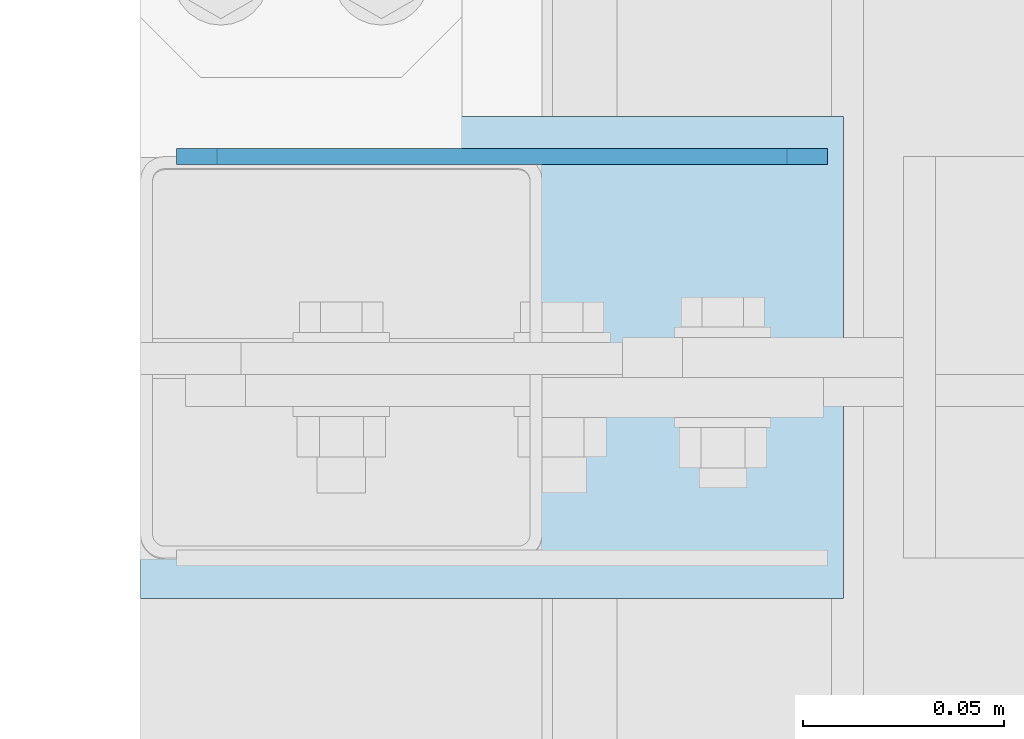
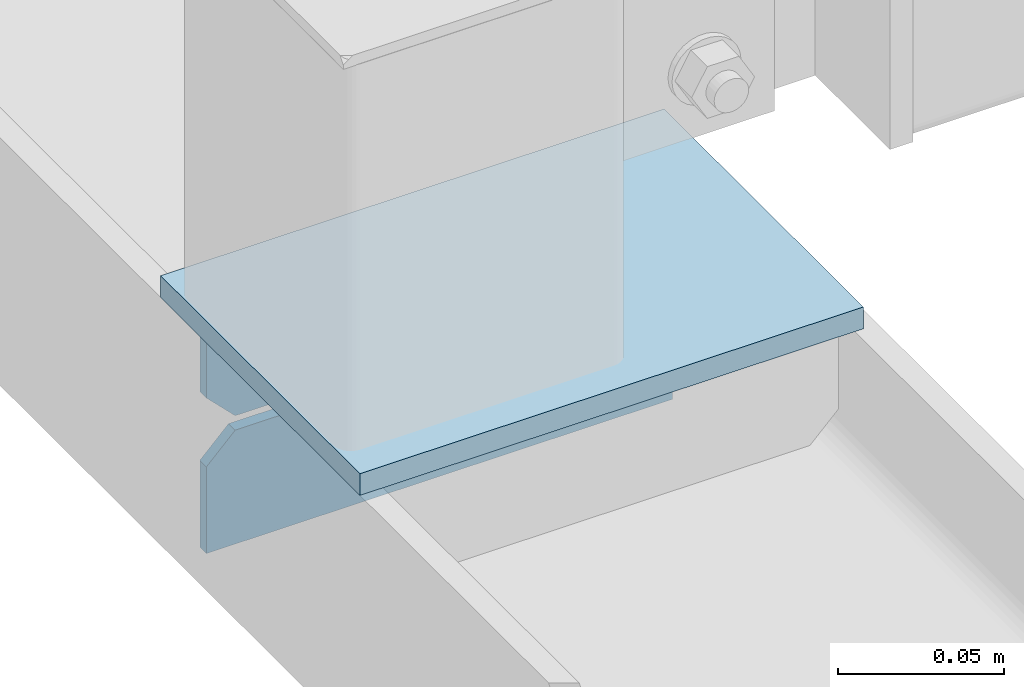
# One storey, part 100 of 271: 3 plates, 1 element without a shape of its own.
"""IFC2X3 building model written with IfcOpenShell, lengths in millimetres."""

import ifcopenshell
import ifcopenshell.guid

model = None  # the IFC model being written
_history = None  # IfcOwnerHistory: only IFC2X3 demands one
_inside = {}  # id of a spatial element -> (the spatial element, [elements in it])
_under = {}  # id of a project, library or spatial element -> (it, [spatial elements below it])
_declared = {}  # id of a project -> (the project, [libraries it declares])
_typed = {}  # id of a type object -> (the type object, [elements of that type])
_made_of = {}  # id of a material, layer set ... -> (it, [elements and type objects made of it])


def new_model(schema):
    """Start an empty IFC model of exactly this schema.

    Asked for "IFC4X3", IfcOpenShell would pick the latest addendum, in which some entities
    have other attributes; the version numbers below select the first issue.
    IFC2X3 requires an IfcOwnerHistory on every rooted entity: one is made here for all.
    """
    global model, _history
    if schema == "IFC4X3":
        model = ifcopenshell.file(schema_version=(4, 3, 0, 0))
    else:
        model = ifcopenshell.file(schema=schema)
    _inside.clear()
    _under.clear()
    _declared.clear()
    _typed.clear()
    _made_of.clear()
    _history = None
    if model.schema == "IFC2X3":
        org = make("IfcOrganization", Name="unknown")
        user = make(
            "IfcPersonAndOrganization",
            ThePerson=make("IfcPerson", FamilyName="unknown"),
            TheOrganization=org,
        )
        app = make(
            "IfcApplication",
            ApplicationDeveloper=org,
            Version="unknown",
            ApplicationFullName="unknown",
            ApplicationIdentifier="unknown",
        )
        _history = make(
            "IfcOwnerHistory",
            OwningUser=user,
            OwningApplication=app,
            ChangeAction="ADDED",
            CreationDate=0,
        )
    return model


def make(cls, **values):
    """One entity of the class cls with the attributes given. An attribute that is None is left unset."""
    return model.create_entity(
        cls, **{name: value for name, value in values.items() if value is not None}
    )


def rooted(cls, **values):
    """An entity with a GlobalId (a new one), such as an element, a storey or a relation."""
    return make(cls, GlobalId=ifcopenshell.guid.new(), OwnerHistory=_history, **values)


def si_unit(unit_type, name, prefix=None):
    """IfcSIUnit, for example si_unit("LENGTHUNIT", "METRE", prefix="MILLI")."""
    return make("IfcSIUnit", UnitType=unit_type, Prefix=prefix, Name=name)


def assignment(units):
    """IfcUnitAssignment: the units of a project."""
    return None if units is None else make("IfcUnitAssignment", Units=units)


def point(xyz):
    """IfcCartesianPoint."""
    return None if xyz is None else make("IfcCartesianPoint", Coordinates=xyz)


def direction(xyz):
    """IfcDirection."""
    return None if xyz is None else make("IfcDirection", DirectionRatios=xyz)


def frame(location, z_axis=None, x_axis=None):
    """IfcAxis2Placement3D, a coordinate frame: its origin and axes. An axis left out is left unset."""
    return make(
        "IfcAxis2Placement3D",
        Location=point(location),
        Axis=direction(z_axis),
        RefDirection=direction(x_axis),
    )


def origin_with_axes():
    """The frame at (0, 0, 0) with the z axis (0, 0, 1) and the x axis (1, 0, 0) written out."""
    return frame((0.0, 0.0, 0.0), z_axis=(0.0, 0.0, 1.0), x_axis=(1.0, 0.0, 0.0))


def place(relative_to, where):
    """IfcLocalPlacement: puts the frame where relative to a parent placement (None: the world)."""
    return make(
        "IfcLocalPlacement", PlacementRelTo=relative_to, RelativePlacement=where
    )


def context(
    kind, dimensions, precision=None, world=None, true_north=None, identifier=None
):
    """IfcGeometricRepresentationContext, for example the 3D "Model" context."""
    return make(
        "IfcGeometricRepresentationContext",
        ContextIdentifier=identifier,
        ContextType=kind,
        CoordinateSpaceDimension=dimensions,
        Precision=precision,
        WorldCoordinateSystem=world,
        TrueNorth=true_north,
    )


def subcontext(parent, identifier, kind, view, scale=None):
    """IfcGeometricRepresentationSubContext, for example "Body" below "Model"."""
    return make(
        "IfcGeometricRepresentationSubContext",
        ContextIdentifier=identifier,
        ContextType=kind,
        ParentContext=parent,
        TargetScale=scale,
        TargetView=view,
    )


def project(units=None, contexts=None):
    """IfcProject with its units and contexts."""
    return rooted(
        "IfcProject",
        Name="project",
        RepresentationContexts=contexts,
        UnitsInContext=assignment(units),
    )


def spatial(cls, under=None, at=None, **own):
    """A site, building, storey or space (cls), placed at a placement, below another one or the project."""
    s = rooted(cls, ObjectPlacement=at, **own)
    if under is not None:
        _under.setdefault(under.id(), (under, []))[1].append(s)
    return s


def polyline(points):
    """IfcPolyline through the points."""
    return make("IfcPolyline", Points=[point(p) for p in points])


def outline(outer, holes=None, kind="AREA"):
    """IfcArbitraryClosedProfileDef: a profile drawn as a closed curve; with holes, ...WithVoids."""
    if holes is None:
        return make("IfcArbitraryClosedProfileDef", ProfileType=kind, OuterCurve=outer)
    return make(
        "IfcArbitraryProfileDefWithVoids",
        ProfileType=kind,
        OuterCurve=outer,
        InnerCurves=holes,
    )


def extrude(swept, where, along, depth):
    """IfcExtrudedAreaSolid: the profile swept, set in the frame where, extruded along a direction by depth."""
    return make(
        "IfcExtrudedAreaSolid",
        SweptArea=swept,
        Position=where,
        ExtrudedDirection=direction(along),
        Depth=depth,
    )


def shape(context_of_items, identifier, shape_type, items):
    """IfcShapeRepresentation: the items that make up one representation, for example the "Body"."""
    return make(
        "IfcShapeRepresentation",
        ContextOfItems=context_of_items,
        RepresentationIdentifier=identifier,
        RepresentationType=shape_type,
        Items=items,
    )


def material(Name=None, Category=None):
    """IfcMaterial."""
    return make("IfcMaterial", Name=Name, Category=Category)


def made_of(thing, what):
    """Note that an element or type object is made of a material, layer set ...; save() writes the relation."""
    if what is not None:
        _made_of.setdefault(what.id(), (what, []))[1].append(thing)
    return thing


def type_object(cls, material=None, **own):
    """A type object (cls), such as IfcWallType, which elements share."""
    return made_of(rooted(cls, **own), material)


def element(
    cls,
    number,
    at=None,
    inside=None,
    cuts=None,
    type_object=None,
    material=None,
    context=None,
    identifier="Body",
    shape_type=None,
    held_by="IfcProductDefinitionShape",
    body=None,
    shapes=None,
    **own,
):
    """One element of the class cls, such as IfcWall. Its Tag is "e" and its number.

    at: its placement. inside: the storey or other place that contains it. cuts: it is an
    opening in that element (IfcRelVoidsElement). A single representation is given by context,
    identifier, shape_type and body (its items); several are given by shapes. held_by: the class
    of the entity that holds the representations. save() writes the other relations.
    """
    e = rooted(cls, Tag="e%d" % number, ObjectPlacement=at, **own)
    if body is not None:
        shapes = [shape(context, identifier, shape_type, body)]
    if shapes is not None:
        e.Representation = make(held_by, Representations=shapes)
    if inside is not None:
        _inside.setdefault(inside.id(), (inside, []))[1].append(e)
    if cuts is not None:
        rooted(
            "IfcRelVoidsElement", RelatingBuildingElement=cuts, RelatedOpeningElement=e
        )
    if type_object is not None:
        _typed.setdefault(type_object.id(), (type_object, []))[1].append(e)
    return made_of(e, material)


def aggregate(whole, parts):
    """IfcRelAggregates: a whole, such as a stair, and the parts it consists of."""
    return rooted("IfcRelAggregates", RelatingObject=whole, RelatedObjects=parts)


def save(model, path):
    """Write the relations noted so far, then the file.

    IfcRelAggregates (storeys below a building ...), IfcRelContainedInSpatialStructure (elements
    in a storey), IfcRelDefinesByType, IfcRelAssociatesMaterial and IfcRelDeclares: one each for
    every whole, place, type object, material and project.
    """
    for whole, parts in _under.values():
        aggregate(whole, parts)
    for where, things in _inside.values():
        rooted(
            "IfcRelContainedInSpatialStructure",
            RelatedElements=things,
            RelatingStructure=where,
        )
    for kind, things in _typed.values():
        rooted("IfcRelDefinesByType", RelatedObjects=things, RelatingType=kind)
    for what, things in _made_of.values():
        rooted("IfcRelAssociatesMaterial", RelatedObjects=things, RelatingMaterial=what)
    for by, libraries in _declared.values():
        rooted("IfcRelDeclares", RelatingContext=by, RelatedDefinitions=libraries)
    model.write(path)


model = new_model("IFC2X3")

# Units and contexts
model_context = context("Model", 3, precision=1e-05, world=origin_with_axes())
body_context = subcontext(model_context, "Body", "Model", "MODEL_VIEW")
ifc_project = project(units=[si_unit("LENGTHUNIT", "METRE", prefix="MILLI"), si_unit("AREAUNIT", "SQUARE_METRE"), si_unit("VOLUMEUNIT", "CUBIC_METRE"), si_unit("MASSUNIT", "GRAM", prefix="KILO"), si_unit("TIMEUNIT", "SECOND"), si_unit("PLANEANGLEUNIT", "RADIAN"), si_unit("SOLIDANGLEUNIT", "STERADIAN"), si_unit("THERMODYNAMICTEMPERATUREUNIT", "DEGREE_CELSIUS"), si_unit("LUMINOUSINTENSITYUNIT", "LUMEN")], contexts=[model_context])

# Site, building, storey
site_placement = place(None, origin_with_axes())
site = spatial("IfcSite", under=ifc_project, at=site_placement, Name="Undefined", CompositionType="ELEMENT")
building_placement = place(site_placement, origin_with_axes())
building = spatial("IfcBuilding", under=site, at=building_placement, Name="Undefined", CompositionType="ELEMENT")
storey_placement = place(building_placement, origin_with_axes())
storey = spatial("IfcBuildingStorey", under=building, at=storey_placement, Name="Undefined", CompositionType="ELEMENT", Elevation=0.0)

# Assembly, plates
assembly_placement = place(storey_placement, origin_with_axes())
assembly = element("IfcElementAssembly", 1, at=assembly_placement, inside=storey, AssemblyPlace="NOTDEFINED", PredefinedType="RIGID_FRAME")
ifc_material = material(Name="STEEL/S355JR")
plate_type_1 = type_object("IfcPlateType", Name="BL4*42", PredefinedType="NOTDEFINED")
plate_1_placement = place(assembly_placement, frame((-2.62431290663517, 949.32498425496, 19959.8499999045), z_axis=(0.0, 1.0, 0.0), x_axis=(0.0, 0.0, 1.0)))
plate_1 = element("IfcPlate", 2, at=plate_1_placement, type_object=plate_type_1, material=ifc_material, Name="BLACHA", ObjectType="BL4*42", context=body_context, shape_type="SweptSolid", body=[
    extrude(outline(polyline([(0.0, 0.0), (31.8499984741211, 0.0), (41.8499984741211, 10.0), (41.8499984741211, 152.0), (31.8499984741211, 162.0), (0.0, 162.0), (0.0, 0.0)])), frame((0.0, 0.0, -2.0), z_axis=(0.0, 0.0, 1.0), x_axis=(1.0, 0.0, 0.0)), (0.0, 0.0, 1.0), 4.0),
])
plate_2_placement = place(assembly_placement, frame((-2.62431290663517, 949.32498425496, 20007.0), z_axis=(0.0, 1.0, 0.0), x_axis=(0.0, 0.0, 1.0)))
plate_2 = element("IfcPlate", 3, at=plate_2_placement, type_object=plate_type_1, material=ifc_material, Name="BLACHA", ObjectType="BL4*42", context=body_context, shape_type="SweptSolid", body=[
    extrude(outline(polyline([(0.0, 10.0), (10.0, -1.24344978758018e-14), (41.8499984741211, -1.06581410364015e-14), (41.8499984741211, 162.0), (10.0, 162.0), (0.0, 152.0), (0.0, 10.0)])), frame((0.0, 0.0, -2.0), z_axis=(0.0, 0.0, 1.0), x_axis=(1.0, 0.0, 0.0)), (0.0, 0.0, 1.0), 4.0),
])
plate_type_2 = type_object("IfcPlateType", Name="BL8*120", PredefinedType="NOTDEFINED")
plate_3_placement = place(assembly_placement, frame((163.375687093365, 959.32498425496, 20053.8499999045), z_axis=(0.0, 0.0, 1.0), x_axis=(-1.0, 0.0, 1.38777878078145e-17)))
plate_3 = element("IfcPlate", 4, at=plate_3_placement, type_object=plate_type_2, material=ifc_material, Name="BLACHA", ObjectType="BL8*120", context=body_context, shape_type="SweptSolid", body=[
    extrude(outline(polyline([(0.0, 0.0), (175.0, 0.0), (175.0, 120.0), (0.0, 120.0), (0.0, 0.0)])), frame((0.0, 0.0, -4.0), z_axis=(0.0, 0.0, 1.0), x_axis=(1.0, 0.0, 0.0)), (0.0, 0.0, 1.0), 8.0),
])
aggregate(assembly, [plate_1, plate_2, plate_3])

save(model, "model.ifc")
